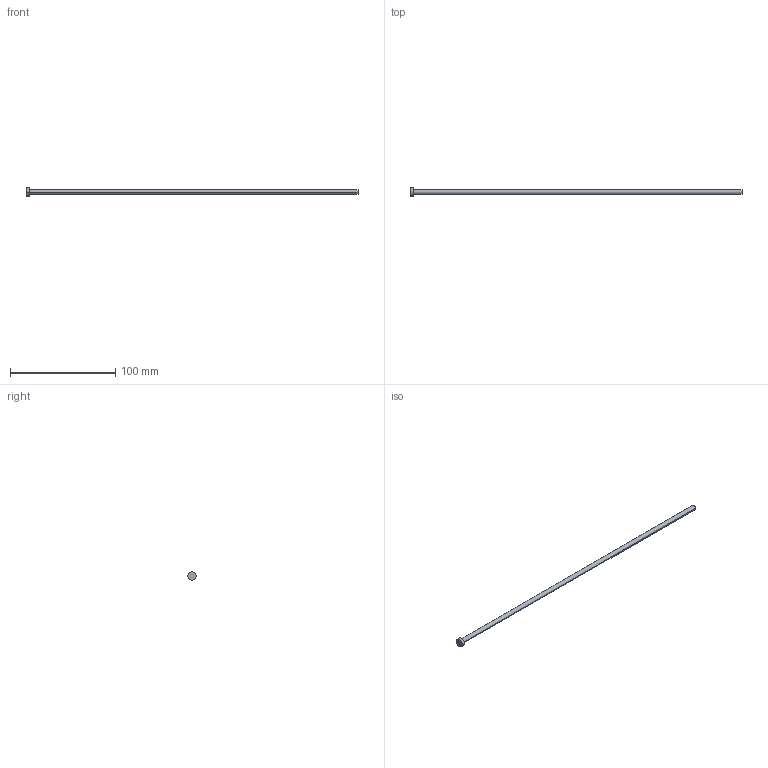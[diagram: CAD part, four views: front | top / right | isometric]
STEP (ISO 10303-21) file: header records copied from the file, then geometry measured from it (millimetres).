
FILE_DESCRIPTION (( 'STEP AP214' ), '1' );
FILE_NAME ('A-4,5x315.STEP', '2020-05-29T10:25:45', ( 'August' ), ( '' ), 'SwSTEP 2.0', 'SolidWorks 2018', '' );
FILE_SCHEMA (( 'AUTOMOTIVE_DESIGN' ));
Length unit declared in the file: millimetre
Products named in the file (1): A-4,5x315
Bounding box: 315 x 8 x 8 mm (x, y, z)
Volume: 5113.2 mm3; surface area: 4584.9 mm2
Topology: 1 solids, 1 shells, 9 faces, 16 edges, 10 vertices
Faces by surface type: cylinder 4, plane 3, torus 2
Entity records: 260 total; most frequent: DIRECTION 48, CARTESIAN_POINT 36, ORIENTED_EDGE 32, AXIS2_PLACEMENT_3D 22, EDGE_CURVE 16, CIRCLE 12, EDGE_LOOP 10, VERTEX_POINT 10
